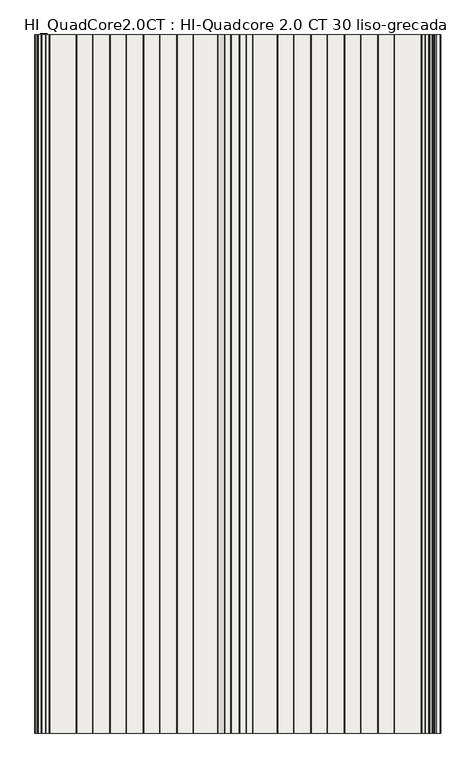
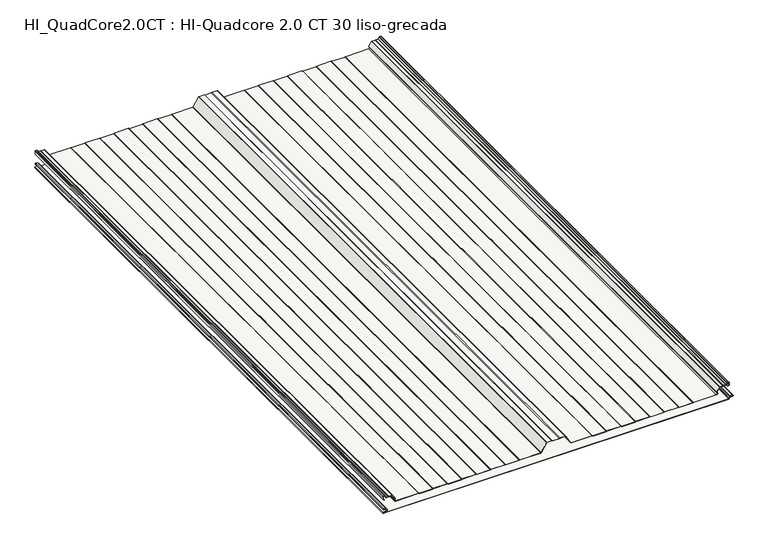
"""IFC4 building model written with IfcOpenShell, lengths in millimetres: slab geometry, HI_QuadCore2.0CT : HI-Quadcore 2.0 CT 30 liso-grecada."""

from ifc_helpers import new_model, si_unit, point, frame, frame_2d, origin, place, context, project, spatial, polyline, circle_curve, trimmed, segment, composite_curve, outline, extrude, source, transform, mapped, element, save
from ifc_brep_helpers import plane_surface, cylinder_surface, revolved_surface, advanced_brep


def hi_quadcore2_0ct_hi_quadcore_2_0_ct_30_liso_grecada_8454063f(model_context):
    return source(origin(), model_context, "Body", "SolidModel", [
        advanced_brep(
        [(1153.6125412, 0.0, 16.239302), (1151.6320413, 0.0, 14.2588021), (1153.3026044, 0.0, 12.2960661), (1161.7027672, 0.0, 10.9645747), (1161.6806488, 0.0, 5.2720118), (1151.7277556, 0.0, 3.7755366), (1152.0100062, 0.0, 0.0), (2297.9590685, 0.0, 0.0), (2300.1391392, 0.0, 2.1800708), (2302.6636211, 0.0, 5.0353254), (2310.9083654, 0.0, 6.0356531), (2310.9083654, 0.0, 10.2043469), (2300.9419234, 0.0, 11.413338), (2298.6324398, 0.0, 14.0237344), (2297.5187526, 0.0, 16.24), (2292.7624398, 0.0, 16.24), (2292.7624398, 0.0, 15.44), (2297.2282701, 0.0, 15.44), (2297.8324398, 0.0, 14.0237344), (2300.8450446, 0.0, 10.6192254), (2310.7843299, 0.0, 9.4135286), (2310.7843221, 0.0, 6.8264698), (2302.5664905, 0.0, 5.8294074), (2299.3391392, 0.0, 2.1800708), (2297.9590685, 0.0, 0.8), (1152.0100062, 0.0, 0.8), (1151.8467032, 0.0, 2.9844289), (1161.7995989, 0.0, 4.4809044), (1161.8278581, 0.0, 11.7547343), (1153.4279307, 0.0, 13.084535), (1152.4319301, 0.0, 14.2584682), (1153.6125693, 0.0, 15.4391074), (1157.510215, 0.0, 15.4391074), (1157.510215, 0.0, 16.239302), (1153.6125412, 2000.0, 16.239302), (1157.510215, 2000.0, 16.239302), (1157.510215, 2000.0, 15.4391074), (1153.6125693, 2000.0, 15.4391074), (1152.4319301, 2000.0, 14.2584682), (1153.4276302, 2000.0, 13.0866965), (1161.8278581, 2000.0, 11.7547343), (1161.7995989, 2000.0, 4.4809044), (1151.8467032, 2000.0, 2.9844289), (1152.0100062, 2000.0, 0.8), (2297.9590685, 2000.0, 0.8), (2299.3391392, 2000.0, 2.1800708), (2302.5664905, 2000.0, 5.8294074), (2310.7843221, 2000.0, 6.8264698), (2310.7843299, 2000.0, 9.4135286), (2300.8450446, 2000.0, 10.6192254), (2297.8324398, 2000.0, 14.0237344), (2297.2282701, 2000.0, 15.44), (2292.7624398, 2000.0, 15.44), (2292.7624398, 2000.0, 16.24), (2297.5187526, 2000.0, 16.24), (2298.6324398, 2000.0, 14.0237344), (2300.9419234, 2000.0, 11.413338), (2310.9083654, 2000.0, 10.2043469), (2310.9083654, 2000.0, 6.0356531), (2302.6636211, 2000.0, 5.0353254), (2300.1391392, 2000.0, 2.1800708), (2297.9590685, 2000.0, 0.0), (1152.0100062, 2000.0, 0.0), (1151.7277556, 2000.0, 3.7755366), (1161.6806488, 2000.0, 5.2720118), (1161.7027672, 2000.0, 10.9645747), (1153.3028397, 2000.0, 12.2943753), (1151.6320413, 2000.0, 14.2588021)],
        [
            (0, 1, circle_curve(frame((1153.6125412, 0.0, 14.2588021), z_axis=(0.0, -1.0, 0.0), x_axis=(1.0, 0.0, 0.0)), 1.9804999)),
            (1, 2, circle_curve(frame((1153.612237, 0.0, 14.2519163), z_axis=(0.0, -1.0, 0.0), x_axis=(1.0, 0.0, 0.0)), 1.9802076)),
            (2, 3),
            (3, 4, circle_curve(frame((1161.2524398, 0.0, 8.12), z_axis=(0.0, 1.0, 0.0), x_axis=(1.0, 0.0, 0.0)), 2.88)),
            (4, 5),
            (5, 6, circle_curve(frame((1152.0100062, 0.0, 1.8983185), z_axis=(0.0, -1.0, 0.0), x_axis=(1.0, 0.0, 0.0)), 1.8983185)),
            (6, 7),
            (7, 8, circle_curve(frame((2297.9590685, 0.0, 2.1800708), z_axis=(0.0, -1.0, 0.0), x_axis=(1.0, 0.0, 0.0)), 2.1800708)),
            (8, 9, circle_curve(frame((2303.0160638, 0.0, 2.1800708), z_axis=(0.0, 1.0, 0.0), x_axis=(1.0, 0.0, 0.0)), 2.8769246)),
            (9, 10),
            (10, 11, circle_curve(frame((2310.5224398, 0.0, 8.12), z_axis=(0.0, -1.0, 0.0), x_axis=(1.0, 0.0, 0.0)), 2.1197737)),
            (11, 12),
            (12, 13, circle_curve(frame((2301.2624398, 0.0, 14.0237344), z_axis=(0.0, 1.0, 0.0), x_axis=(1.0, 0.0, 0.0)), 2.63)),
            (13, 14, circle_curve(frame((2295.8703839, 0.0, 14.0237344), z_axis=(0.0, -1.0, 0.0), x_axis=(1.0, 0.0, 0.0)), 2.7620559)),
            (14, 15),
            (15, 16),
            (16, 17),
            (17, 18, circle_curve(frame((2295.8703839, 0.0, 14.0237344), z_axis=(0.0, 1.0, 0.0), x_axis=(1.0, 0.0, 0.0)), 1.9620559)),
            (18, 19, circle_curve(frame((2301.2624398, 0.0, 14.0237344), z_axis=(0.0, -1.0, 0.0), x_axis=(1.0, 0.0, 0.0)), 3.43)),
            (19, 20),
            (20, 21, circle_curve(frame((2310.5224398, 0.0, 8.12), z_axis=(0.0, 1.0, 0.0), x_axis=(1.0, 0.0, 0.0)), 1.3197737)),
            (21, 22),
            (22, 23, circle_curve(frame((2303.0160638, 0.0, 2.1800708), z_axis=(0.0, -1.0, 0.0), x_axis=(1.0, 0.0, 0.0)), 3.6769246)),
            (23, 24, circle_curve(frame((2297.9590685, 0.0, 2.1800708), z_axis=(0.0, 1.0, 0.0), x_axis=(1.0, 0.0, 0.0)), 1.3800708)),
            (24, 25),
            (25, 26, circle_curve(frame((1152.0100062, 0.0, 1.8983185), z_axis=(0.0, 1.0, 0.0), x_axis=(1.0, 0.0, 0.0)), 1.0983185)),
            (26, 27),
            (27, 28, circle_curve(frame((1161.2524398, 0.0, 8.12), z_axis=(0.0, -1.0, 0.0), x_axis=(1.0, 0.0, 0.0)), 3.68)),
            (28, 29),
            (29, 30, circle_curve(frame((1153.6121809, 0.0, 14.2524448), z_axis=(0.0, 1.0, 0.0), x_axis=(1.0, 0.0, 0.0)), 1.1802661)),
            (30, 31, circle_curve(frame((1153.6125693, 0.0, 14.2584682), z_axis=(0.0, 1.0, 0.0), x_axis=(1.0, 0.0, 0.0)), 1.1806391)),
            (31, 32),
            (32, 33),
            (33, 0),
            (34, 35),
            (35, 36),
            (36, 37),
            (37, 38, circle_curve(frame((1153.6125693, 2000.0, 14.2584682), z_axis=(0.0, -1.0, 0.0), x_axis=(1.0, 0.0, 0.0)), 1.1806391)),
            (38, 39, circle_curve(frame((1153.6121809, 2000.0, 14.2524448), z_axis=(0.0, -1.0, 0.0), x_axis=(1.0, 0.0, 0.0)), 1.1802661)),
            (39, 40),
            (40, 41, circle_curve(frame((1161.2524398, 2000.0, 8.12), z_axis=(0.0, 1.0, 0.0), x_axis=(1.0, 0.0, 0.0)), 3.68)),
            (41, 42),
            (42, 43, circle_curve(frame((1152.0100062, 2000.0, 1.8983185), z_axis=(0.0, -1.0, 0.0), x_axis=(1.0, 0.0, 0.0)), 1.0983185)),
            (43, 44),
            (44, 45, circle_curve(frame((2297.9590685, 2000.0, 2.1800708), z_axis=(0.0, -1.0, 0.0), x_axis=(1.0, 0.0, 0.0)), 1.3800708)),
            (45, 46, circle_curve(frame((2303.0160638, 2000.0, 2.1800708), z_axis=(0.0, 1.0, 0.0), x_axis=(1.0, 0.0, 0.0)), 3.6769246)),
            (46, 47),
            (47, 48, circle_curve(frame((2310.5224398, 2000.0, 8.12), z_axis=(0.0, -1.0, 0.0), x_axis=(1.0, 0.0, 0.0)), 1.3197737)),
            (48, 49),
            (49, 50, circle_curve(frame((2301.2624398, 2000.0, 14.0237344), z_axis=(0.0, 1.0, 0.0), x_axis=(1.0, 0.0, 0.0)), 3.43)),
            (50, 51, circle_curve(frame((2295.8703839, 2000.0, 14.0237344), z_axis=(0.0, -1.0, 0.0), x_axis=(1.0, 0.0, 0.0)), 1.9620559)),
            (51, 52),
            (52, 53),
            (53, 54),
            (54, 55, circle_curve(frame((2295.8703839, 2000.0, 14.0237344), z_axis=(0.0, 1.0, 0.0), x_axis=(1.0, 0.0, 0.0)), 2.7620559)),
            (55, 56, circle_curve(frame((2301.2624398, 2000.0, 14.0237344), z_axis=(0.0, -1.0, 0.0), x_axis=(1.0, 0.0, 0.0)), 2.63)),
            (56, 57),
            (57, 58, circle_curve(frame((2310.5224398, 2000.0, 8.12), z_axis=(0.0, 1.0, 0.0), x_axis=(1.0, 0.0, 0.0)), 2.1197737)),
            (58, 59),
            (59, 60, circle_curve(frame((2303.0160638, 2000.0, 2.1800708), z_axis=(0.0, -1.0, 0.0), x_axis=(1.0, 0.0, 0.0)), 2.8769246)),
            (60, 61, circle_curve(frame((2297.9590685, 2000.0, 2.1800708), z_axis=(0.0, 1.0, 0.0), x_axis=(1.0, 0.0, 0.0)), 2.1800708)),
            (61, 62),
            (62, 63, circle_curve(frame((1152.0100062, 2000.0, 1.8983185), z_axis=(0.0, 1.0, 0.0), x_axis=(1.0, 0.0, 0.0)), 1.8983185)),
            (63, 64),
            (64, 65, circle_curve(frame((1161.2524398, 2000.0, 8.12), z_axis=(0.0, -1.0, 0.0), x_axis=(1.0, 0.0, 0.0)), 2.88)),
            (65, 66),
            (66, 67, circle_curve(frame((1153.612237, 2000.0, 14.2519163), z_axis=(0.0, 1.0, 0.0), x_axis=(1.0, 0.0, 0.0)), 1.9802076)),
            (67, 34, circle_curve(frame((1153.6125412, 2000.0, 14.2588021), z_axis=(0.0, 1.0, 0.0), x_axis=(1.0, 0.0, 0.0)), 1.9804999)),
            (0, 34),
            (67, 1),
            (66, 2),
            (65, 3),
            (64, 4),
            (63, 5),
            (62, 6),
            (61, 7),
            (60, 8),
            (59, 9),
            (58, 10),
            (57, 11),
            (56, 12),
            (55, 13),
            (54, 14),
            (53, 15),
            (52, 16),
            (51, 17),
            (50, 18),
            (49, 19),
            (48, 20),
            (47, 21),
            (46, 22),
            (45, 23),
            (44, 24),
            (43, 25),
            (42, 26),
            (41, 27),
            (40, 28),
            (39, 29),
            (38, 30),
            (37, 31),
            (36, 32),
            (35, 33),
        ],
        [
            plane_surface(frame((1155.5930411, 0.0, 14.2588021), z_axis=(0.0, -1.0, 0.0), x_axis=(0.0, 0.0, 1.0))),
            plane_surface(frame((1155.5930411, 2000.0, 14.2588021), z_axis=(0.0, 1.0, 0.0), x_axis=(0.0, 0.0, -1.0))),
            cylinder_surface(frame((1153.6125412, 2000.0, 14.2588021), z_axis=(0.0, -1.0, 0.0), x_axis=(1.0, 0.0, 0.0)), 1.9804999),
            cylinder_surface(frame((1153.612237, 2000.0, 14.2519163), z_axis=(0.0, -1.0, 0.0), x_axis=(1.0, 0.0, 0.0)), 1.9802076),
            plane_surface(frame((1153.3028397, 0.0, 12.2943753), z_axis=(-0.15636367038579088, 0.0, -0.9876995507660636), x_axis=(0.0, 1.0, 0.0))),
            revolved_surface(polyline([(1164.1324398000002, 2000.0, 8.12), (1164.1324398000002, 0.0, 8.12)]), (1161.2524398, 2000.0, 8.12), (0.0, 1.0, 0.0)),
            plane_surface(frame((1161.6806488, 0.0, 5.2720118), z_axis=(-0.14868453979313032, 0.0, 0.9888846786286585), x_axis=(0.0, 1.0, 0.0))),
            cylinder_surface(frame((1152.0100062, 2000.0, 1.8983185), z_axis=(0.0, -1.0, 0.0), x_axis=(1.0, 0.0, 0.0)), 1.8983185),
            plane_surface(frame((1152.0100062, 0.0, 0.0), z_axis=(0.0, 0.0, -1.0), x_axis=(0.0, 1.0, 0.0))),
            cylinder_surface(frame((2297.9590685, 2000.0, 2.1800708), z_axis=(0.0, -1.0, 0.0), x_axis=(1.0, 0.0, 0.0)), 2.1800708),
            revolved_surface(polyline([(2305.8929884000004, 2000.0, 2.1800708), (2305.8929884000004, 0.0, 2.1800708)]), (2303.0160638, 2000.0, 2.1800708), (0.0, 1.0, 0.0)),
            plane_surface(frame((2302.6636211, 0.0, 5.0353254), z_axis=(0.12044584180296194, 0.0, -0.9927198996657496), x_axis=(0.0, 1.0, 0.0))),
            cylinder_surface(frame((2310.5224398, 2000.0, 8.12), z_axis=(0.0, -1.0, 0.0), x_axis=(1.0, 0.0, 0.0)), 2.1197737),
            plane_surface(frame((2310.9083654, 0.0, 10.2043469), z_axis=(0.12042339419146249, 0.0, 0.9927226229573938), x_axis=(0.0, 1.0, 0.0))),
            revolved_surface(polyline([(2303.8924398, 2000.0, 14.0237344), (2303.8924398, 0.0, 14.0237344)]), (2301.2624398, 2000.0, 14.0237344), (0.0, 1.0, 0.0)),
            cylinder_surface(frame((2295.8703839, 2000.0, 14.0237344), z_axis=(0.0, -1.0, 0.0), x_axis=(1.0, 0.0, 0.0)), 2.7620559),
            plane_surface(frame((2297.5187526, 0.0, 16.24), z_axis=(0.0, 0.0, 1.0), x_axis=(0.0, 1.0, 0.0))),
            plane_surface(frame((2292.7624398, 0.0, 16.24), z_axis=(-1.0, 0.0, 0.0), x_axis=(0.0, 1.0, 0.0))),
            plane_surface(frame((2292.7624398, 0.0, 15.44), z_axis=(0.0, 0.0, -1.0), x_axis=(0.0, 1.0, 0.0))),
            revolved_surface(polyline([(2297.8324398, 2000.0, 14.0237344), (2297.8324398, 0.0, 14.0237344)]), (2295.8703839, 2000.0, 14.0237344), (0.0, 1.0, 0.0)),
            cylinder_surface(frame((2301.2624398, 2000.0, 14.0237344), z_axis=(0.0, -1.0, 0.0), x_axis=(1.0, 0.0, 0.0)), 3.43),
            plane_surface(frame((2300.8450446, 0.0, 10.6192254), z_axis=(-0.12042339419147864, 0.0, -0.9927226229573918), x_axis=(0.0, 1.0, 0.0))),
            revolved_surface(polyline([(2311.8422135, 2000.0, 8.12), (2311.8422135, 0.0, 8.12)]), (2310.5224398, 2000.0, 8.12), (0.0, 1.0, 0.0)),
            plane_surface(frame((2310.7843221, 0.0, 6.8264698), z_axis=(-0.12044584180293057, 0.0, 0.9927198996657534), x_axis=(0.0, 1.0, 0.0))),
            cylinder_surface(frame((2303.0160638, 2000.0, 2.1800708), z_axis=(0.0, -1.0, 0.0), x_axis=(1.0, 0.0, 0.0)), 3.6769246),
            revolved_surface(polyline([(2299.3391392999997, 2000.0, 2.1800708), (2299.3391392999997, 0.0, 2.1800708)]), (2297.9590685, 2000.0, 2.1800708), (0.0, 1.0, 0.0)),
            plane_surface(frame((2297.9590685, 0.0, 0.8), z_axis=(0.0, 0.0, 1.0), x_axis=(0.0, 1.0, 0.0))),
            revolved_surface(polyline([(1153.1083247, 2000.0, 1.8983185), (1153.1083247, 0.0, 1.8983185)]), (1152.0100062, 2000.0, 1.8983185), (0.0, 1.0, 0.0)),
            plane_surface(frame((1151.8467032, 0.0, 2.9844289), z_axis=(0.14868453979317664, 0.0, -0.9888846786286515), x_axis=(0.0, 1.0, 0.0))),
            cylinder_surface(frame((1161.2524398, 2000.0, 8.12), z_axis=(0.0, -1.0, 0.0), x_axis=(1.0, 0.0, 0.0)), 3.68),
            plane_surface(frame((1161.8278581, 0.0, 11.7547343), z_axis=(0.15636367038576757, 0.0, 0.9876995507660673), x_axis=(0.0, 1.0, 0.0))),
            revolved_surface(polyline([(1154.792447, 2000.0, 14.2524448), (1154.792447, 0.0, 14.2524448)]), (1153.6121809, 2000.0, 14.2524448), (0.0, 1.0, 0.0)),
            revolved_surface(polyline([(1154.7932084, 2000.0, 14.2584682), (1154.7932084, 0.0, 14.2584682)]), (1153.6125693, 2000.0, 14.2584682), (0.0, 1.0, 0.0)),
            plane_surface(frame((1153.6125693, 0.0, 15.4391074), z_axis=(0.0, 0.0, -1.0), x_axis=(0.0, 1.0, 0.0))),
            plane_surface(frame((1157.510215, 0.0, 15.4391074), z_axis=(1.0, 0.0, 0.0), x_axis=(0.0, 1.0, 0.0))),
            plane_surface(frame((1157.510215, 0.0, 16.239302), z_axis=(0.0, 0.0, 1.0), x_axis=(0.0, 1.0, 0.0))),
        ],
        [
            (0, [[1, 2, 3, 4, 5, 6, 7, 8, 9, 10, 11, 12, 13, 14, 15, 16, 17, 18, 19, 20, 21, 22, 23, 24, 25, 26, 27, 28, 29, 30, 31, 32, 33, 34]]),
            (1, [[35, 36, 37, 38, 39, 40, 41, 42, 43, 44, 45, 46, 47, 48, 49, 50, 51, 52, 53, 54, 55, 56, 57, 58, 59, 60, 61, 62, 63, 64, 65, 66, 67, 68]]),
            (2, [[-1, 69, -68, 70]]),
            (3, [[-2, -70, -67, 71]]),
            (4, [[-3, -71, -66, 72]]),
            (5, [[-4, -72, -65, 73]]),
            (6, [[-5, -73, -64, 74]]),
            (7, [[-6, -74, -63, 75]]),
            (8, [[-7, -75, -62, 76]]),
            (9, [[-8, -76, -61, 77]]),
            (10, [[-9, -77, -60, 78]]),
            (11, [[-10, -78, -59, 79]]),
            (12, [[-11, -79, -58, 80]]),
            (13, [[-12, -80, -57, 81]]),
            (14, [[-13, -81, -56, 82]]),
            (15, [[-14, -82, -55, 83]]),
            (16, [[-15, -83, -54, 84]]),
            (17, [[-16, -84, -53, 85]]),
            (18, [[-17, -85, -52, 86]]),
            (19, [[-18, -86, -51, 87]]),
            (20, [[-19, -87, -50, 88]]),
            (21, [[-20, -88, -49, 89]]),
            (22, [[-21, -89, -48, 90]]),
            (23, [[-22, -90, -47, 91]]),
            (24, [[-23, -91, -46, 92]]),
            (25, [[-24, -92, -45, 93]]),
            (26, [[-25, -93, -44, 94]]),
            (27, [[-26, -94, -43, 95]]),
            (28, [[-27, -95, -42, 96]]),
            (29, [[-28, -96, -41, 97]]),
            (30, [[-29, -97, -40, 98]]),
            (31, [[-30, -98, -39, 99]]),
            (32, [[-31, -99, -38, 100]]),
            (33, [[-32, -100, -37, 101]]),
            (34, [[-33, -101, -36, 102]]),
            (35, [[-34, -102, -35, -69]]),
        ],
    ),
        extrude(outline(composite_curve([segment(polyline([(47.9163804, 1151.3824194), (45.7425833, 1155.1475465), (46.4354036, 1155.5475465), (48.6669358, 1151.6824194), (58.1, 1151.6824194)]), True, "CONTINUOUS"), segment(trimmed(circle_curve(frame_2d((58.1, 1152.7824194)), 1.1), [point((58.1, 1151.6824194))], [point((59.2, 1152.7824194))], True, "CARTESIAN"), True, "CONTINUOUS"), segment(polyline([(59.2, 1152.7824194), (59.2, 1156.3760168)]), True, "CONTINUOUS"), segment(trimmed(circle_curve(frame_2d((58.1, 1156.3760168)), 1.1), [point((59.2, 1156.3760168))], [point((58.5209518, 1157.3922843))], True, "CARTESIAN"), True, "CONTINUOUS"), segment(polyline([(58.5209518, 1157.3922843), (54.0383476, 1159.2490397)]), True, "CONTINUOUS"), segment(trimmed(circle_curve(frame_2d((54.93, 1161.4016791)), 2.33), [point((54.0383476, 1159.2490397))], [point((52.6, 1161.4016791))], False, "CARTESIAN"), True, "CONTINUOUS"), segment(polyline([(52.6, 1161.4016791), (52.6, 1168.1276514), (51.8110374, 1169.8324194), (52.6, 1171.5371875), (52.6, 1180.8643848)]), True, "CONTINUOUS"), segment(trimmed(circle_curve(frame_2d((51.5, 1180.8643848)), 1.1), [point((52.6, 1180.8643848))], [point((52.1230469, 1181.7709236))], True, "CARTESIAN"), True, "CONTINUOUS"), segment(polyline([(52.1230469, 1181.7709236), (38.5361221, 1191.1089583)]), True, "CONTINUOUS"), segment(trimmed(circle_curve(frame_2d((37.9130752, 1190.2024195)), 1.1), [point((38.5361221, 1191.1089583))], [point((37.0692788, 1190.9081159))], True, "CARTESIAN"), True, "CONTINUOUS"), segment(polyline([(37.0692788, 1190.9081159), (36.2744555, 1189.9577511)]), True, "CONTINUOUS"), segment(trimmed(circle_curve(frame_2d((33.3, 1192.7795617)), 4.1), [point((36.2744555, 1189.9577511))], [point((29.2, 1192.7795617))], False, "CARTESIAN"), True, "CONTINUOUS"), segment(polyline([(29.2, 1192.7795617), (29.2, 1268.8832267), (28.2, 1270.6152775), (28.2, 1315.6495614), (29.2, 1317.3816122), (29.2, 1364.8832267), (28.2, 1366.6152775), (28.2, 1411.6495614), (29.2, 1413.3816122), (29.2, 1460.8832267), (28.2, 1462.6152775), (28.2, 1507.6495614), (29.2, 1509.3816122), (29.2, 1556.8832267), (28.2, 1558.6152775), (28.2, 1603.6495614), (29.2, 1605.3816122), (29.2, 1674.3619266)]), True, "CONTINUOUS"), segment(trimmed(circle_curve(frame_2d((31.53, 1674.3619266)), 2.33), [point((29.2, 1674.3619266))], [point((30.2833287, 1676.330355))], False, "CARTESIAN"), True, "CONTINUOUS"), segment(polyline([(30.2833287, 1676.330355), (58.6885573, 1694.3203331)]), True, "CONTINUOUS"), segment(trimmed(circle_curve(frame_2d((58.1, 1695.2496341)), 1.1), [point((58.6885573, 1694.3203331))], [point((59.2, 1695.2496341))], True, "CARTESIAN"), True, "CONTINUOUS"), segment(polyline([(59.2, 1695.2496341), (59.2, 1711.3832267), (57.7, 1713.9813029), (57.7, 1736.283536), (59.2, 1738.8816122), (59.2, 1755.0152048)]), True, "CONTINUOUS"), segment(trimmed(circle_curve(frame_2d((58.1, 1755.0152048)), 1.1), [point((59.2, 1755.0152048))], [point((58.6885573, 1755.9445057))], True, "CARTESIAN"), True, "CONTINUOUS"), segment(polyline([(58.6885573, 1755.9445057), (30.2833287, 1773.9344839)]), True, "CONTINUOUS"), segment(trimmed(circle_curve(frame_2d((31.53, 1775.9029123)), 2.33), [point((30.2833287, 1773.9344839))], [point((29.2, 1775.9029123))], False, "CARTESIAN"), True, "CONTINUOUS"), segment(polyline([(29.2, 1775.9029123), (29.2, 1844.8832267), (28.2, 1846.6152775), (28.2, 1891.6495614), (29.2, 1893.3816122), (29.2, 1940.8832267), (28.2, 1942.6152775), (28.2, 1987.6495614), (29.2, 1989.3816122), (29.2, 2036.8832267), (28.2, 2038.6152775), (28.2, 2083.6495614), (29.2, 2085.3816122), (29.2, 2132.8832267), (28.2, 2134.6152775), (28.2, 2179.6495614), (29.2, 2181.3816122), (29.2, 2257.4852773)]), True, "CONTINUOUS"), segment(trimmed(circle_curve(frame_2d((33.3, 2257.4852773)), 4.1), [point((29.2, 2257.4852773))], [point((36.2744554, 2260.3070878))], False, "CARTESIAN"), True, "CONTINUOUS"), segment(polyline([(36.2744554, 2260.3070878), (37.0692788, 2259.356723)]), True, "CONTINUOUS"), segment(trimmed(circle_curve(frame_2d((37.9130753, 2260.0624194)), 1.1), [point((37.0692788, 2259.356723))], [point((38.5361221, 2259.1558806))], True, "CARTESIAN"), True, "CONTINUOUS"), segment(polyline([(38.5361221, 2259.1558806), (52.1230469, 2268.4939153)]), True, "CONTINUOUS"), segment(trimmed(circle_curve(frame_2d((51.5, 2269.4004541)), 1.1), [point((52.1230469, 2268.4939153))], [point((52.6, 2269.4004541))], True, "CARTESIAN"), True, "CONTINUOUS"), segment(polyline([(52.6, 2269.4004541), (52.6, 2278.7276514), (51.8110374, 2280.4324194), (52.6, 2282.1371875), (52.6, 2288.8631598)]), True, "CONTINUOUS"), segment(trimmed(circle_curve(frame_2d((54.93, 2288.8631598)), 2.33), [point((52.6, 2288.8631598))], [point((54.0383476, 2291.0157992))], False, "CARTESIAN"), True, "CONTINUOUS"), segment(polyline([(54.0383476, 2291.0157992), (58.5209518, 2292.8725546)]), True, "CONTINUOUS"), segment(trimmed(circle_curve(frame_2d((58.1, 2293.8888221)), 1.1), [point((58.5209518, 2292.8725546))], [point((59.2, 2293.8888221))], True, "CARTESIAN"), True, "CONTINUOUS"), segment(polyline([(59.2, 2293.8888221), (59.2, 2297.4824194)]), True, "CONTINUOUS"), segment(trimmed(circle_curve(frame_2d((58.1, 2297.4824194)), 1.1), [point((59.2, 2297.4824194))], [point((58.1, 2298.5824194))], True, "CARTESIAN"), True, "CONTINUOUS"), segment(polyline([(58.1, 2298.5824194), (48.6669358, 2298.5824194), (46.4354036, 2294.7172924), (45.7425833, 2295.1172924), (47.9163804, 2298.8824194)]), True, "CONTINUOUS"), segment(trimmed(circle_curve(frame_2d((48.7824058, 2298.3824194)), 1.0), [point((47.9163804, 2298.8824194))], [point((48.7824058, 2299.3824194))], False, "CARTESIAN"), True, "CONTINUOUS"), segment(polyline([(48.7824058, 2299.3824194), (58.1, 2299.3824194)]), True, "CONTINUOUS"), segment(trimmed(circle_curve(frame_2d((58.1, 2297.4824194)), 1.9), [point((58.1, 2299.3824194))], [point((60.0, 2297.4824194))], False, "CARTESIAN"), True, "CONTINUOUS"), segment(polyline([(60.0, 2297.4824194), (60.0, 2293.8888221)]), True, "CONTINUOUS"), segment(trimmed(circle_curve(frame_2d((58.1, 2293.8888221)), 1.9), [point((60.0, 2293.8888221))], [point((58.8270985, 2292.133451))], False, "CARTESIAN"), True, "CONTINUOUS"), segment(polyline([(58.8270985, 2292.133451), (54.3444944, 2290.2766955)]), True, "CONTINUOUS"), segment(trimmed(circle_curve(frame_2d((54.93, 2288.8631598)), 1.53), [point((54.3444944, 2290.2766955))], [point((53.4, 2288.8631598))], True, "CARTESIAN"), True, "CONTINUOUS"), segment(polyline([(53.4, 2288.8631598), (53.4, 2281.9610429), (52.6925567, 2280.4324194), (53.4, 2278.903796), (53.4, 2269.4004541)]), True, "CONTINUOUS"), segment(trimmed(circle_curve(frame_2d((51.5, 2269.4004541)), 1.9), [point((53.4, 2269.4004541))], [point((52.5761719, 2267.8346144))], False, "CARTESIAN"), True, "CONTINUOUS"), segment(polyline([(52.5761719, 2267.8346144), (38.9892471, 2258.4965797)]), True, "CONTINUOUS"), segment(trimmed(circle_curve(frame_2d((37.9130753, 2260.0624194)), 1.9), [point((38.9892471, 2258.4965797))], [point((36.4556086, 2258.8434892))], False, "CARTESIAN"), True, "CONTINUOUS"), segment(polyline([(36.4556086, 2258.8434892), (35.6777166, 2259.7736094)]), True, "CONTINUOUS"), segment(trimmed(circle_curve(frame_2d((33.3, 2257.4852773)), 3.3), [point((35.6777166, 2259.7736094))], [point((30.0, 2257.4852773))], True, "CARTESIAN"), True, "CONTINUOUS"), segment(polyline([(30.0, 2257.4852773), (30.0, 2181.5691766)]), True, "CONTINUOUS"), segment(trimmed(circle_curve(frame_2d((28.5, 2181.5691766)), 1.5), [point((30.0, 2181.5691766))], [point((29.7990381, 2180.8191766))], False, "CARTESIAN"), True, "CONTINUOUS"), segment(polyline([(29.7990381, 2180.8191766), (29.0, 2179.435202), (29.0, 2134.8296369), (29.7990381, 2133.4456623)]), True, "CONTINUOUS"), segment(trimmed(circle_curve(frame_2d((28.5, 2132.6956623)), 1.5), [point((29.7990381, 2133.4456623))], [point((30.0, 2132.6956623))], False, "CARTESIAN"), True, "CONTINUOUS"), segment(polyline([(30.0, 2132.6956623), (30.0, 2085.5691766)]), True, "CONTINUOUS"), segment(trimmed(circle_curve(frame_2d((28.5, 2085.5691766)), 1.5), [point((30.0, 2085.5691766))], [point((29.7990381, 2084.8191766))], False, "CARTESIAN"), True, "CONTINUOUS"), segment(polyline([(29.7990381, 2084.8191766), (29.0, 2083.435202), (29.0, 2038.8296369), (29.7990381, 2037.4456623)]), True, "CONTINUOUS"), segment(trimmed(circle_curve(frame_2d((28.5, 2036.6956623)), 1.5), [point((29.7990381, 2037.4456623))], [point((30.0, 2036.6956623))], False, "CARTESIAN"), True, "CONTINUOUS"), segment(polyline([(30.0, 2036.6956623), (30.0, 1989.5691766)]), True, "CONTINUOUS"), segment(trimmed(circle_curve(frame_2d((28.5, 1989.5691766)), 1.5), [point((30.0, 1989.5691766))], [point((29.7990381, 1988.8191766))], False, "CARTESIAN"), True, "CONTINUOUS"), segment(polyline([(29.7990381, 1988.8191766), (29.0, 1987.435202), (29.0, 1942.8296369), (29.7990381, 1941.4456623)]), True, "CONTINUOUS"), segment(trimmed(circle_curve(frame_2d((28.5, 1940.6956623)), 1.5), [point((29.7990381, 1941.4456623))], [point((30.0, 1940.6956623))], False, "CARTESIAN"), True, "CONTINUOUS"), segment(polyline([(30.0, 1940.6956623), (30.0, 1893.5691766)]), True, "CONTINUOUS"), segment(trimmed(circle_curve(frame_2d((28.5, 1893.5691766)), 1.5), [point((30.0, 1893.5691766))], [point((29.7990381, 1892.8191766))], False, "CARTESIAN"), True, "CONTINUOUS"), segment(polyline([(29.7990381, 1892.8191766), (29.0, 1891.435202), (29.0, 1846.8296369), (29.7990381, 1845.4456623)]), True, "CONTINUOUS"), segment(trimmed(circle_curve(frame_2d((28.5, 1844.6956623)), 1.5), [point((29.7990381, 1845.4456623))], [point((30.0, 1844.6956623))], False, "CARTESIAN"), True, "CONTINUOUS"), segment(polyline([(30.0, 1844.6956623), (30.0, 1775.9029123)]), True, "CONTINUOUS"), segment(trimmed(circle_curve(frame_2d((31.53, 1775.9029123)), 1.53), [point((30.0, 1775.9029123))], [point((30.7113703, 1774.6103391))], True, "CARTESIAN"), True, "CONTINUOUS"), segment(polyline([(30.7113703, 1774.6103391), (59.116599, 1756.620361)]), True, "CONTINUOUS"), segment(trimmed(circle_curve(frame_2d((58.1, 1755.0152048)), 1.9), [point((59.116599, 1756.620361))], [point((60.0, 1755.0152048))], False, "CARTESIAN"), True, "CONTINUOUS"), segment(polyline([(60.0, 1755.0152048), (60.0, 1738.6672528), (58.5, 1736.0691766), (58.5, 1714.1956623), (60.0, 1711.5975861), (60.0, 1695.2496341)]), True, "CONTINUOUS"), segment(trimmed(circle_curve(frame_2d((58.1, 1695.2496341)), 1.9), [point((60.0, 1695.2496341))], [point((59.116599, 1693.6444779))], False, "CARTESIAN"), True, "CONTINUOUS"), segment(polyline([(59.116599, 1693.6444779), (30.7113703, 1675.6544998)]), True, "CONTINUOUS"), segment(trimmed(circle_curve(frame_2d((31.53, 1674.3619266)), 1.53), [point((30.7113703, 1675.6544998))], [point((30.0, 1674.3619266))], True, "CARTESIAN"), True, "CONTINUOUS"), segment(polyline([(30.0, 1674.3619266), (30.0, 1605.5691766)]), True, "CONTINUOUS"), segment(trimmed(circle_curve(frame_2d((28.5, 1605.5691766)), 1.5), [point((30.0, 1605.5691766))], [point((29.7990381, 1604.8191766))], False, "CARTESIAN"), True, "CONTINUOUS"), segment(polyline([(29.7990381, 1604.8191766), (29.0, 1603.435202), (29.0, 1558.8296369), (29.7990381, 1557.4456623)]), True, "CONTINUOUS"), segment(trimmed(circle_curve(frame_2d((28.5, 1556.6956623)), 1.5), [point((29.7990381, 1557.4456623))], [point((30.0, 1556.6956623))], False, "CARTESIAN"), True, "CONTINUOUS"), segment(polyline([(30.0, 1556.6956623), (30.0, 1509.5691766)]), True, "CONTINUOUS"), segment(trimmed(circle_curve(frame_2d((28.5, 1509.5691766)), 1.5), [point((30.0, 1509.5691766))], [point((29.7990381, 1508.8191766))], False, "CARTESIAN"), True, "CONTINUOUS"), segment(polyline([(29.7990381, 1508.8191766), (29.0, 1507.435202), (29.0, 1462.8296369), (29.7990381, 1461.4456623)]), True, "CONTINUOUS"), segment(trimmed(circle_curve(frame_2d((28.5, 1460.6956623)), 1.5), [point((29.7990381, 1461.4456623))], [point((30.0, 1460.6956623))], False, "CARTESIAN"), True, "CONTINUOUS"), segment(polyline([(30.0, 1460.6956623), (30.0, 1413.5691766)]), True, "CONTINUOUS"), segment(trimmed(circle_curve(frame_2d((28.5, 1413.5691766)), 1.5), [point((30.0, 1413.5691766))], [point((29.7990381, 1412.8191766))], False, "CARTESIAN"), True, "CONTINUOUS"), segment(polyline([(29.7990381, 1412.8191766), (29.0, 1411.435202), (29.0, 1366.8296369), (29.7990381, 1365.4456623)]), True, "CONTINUOUS"), segment(trimmed(circle_curve(frame_2d((28.5, 1364.6956623)), 1.5), [point((29.7990381, 1365.4456623))], [point((30.0, 1364.6956623))], False, "CARTESIAN"), True, "CONTINUOUS"), segment(polyline([(30.0, 1364.6956623), (30.0, 1317.5691766)]), True, "CONTINUOUS"), segment(trimmed(circle_curve(frame_2d((28.5, 1317.5691766)), 1.5), [point((30.0, 1317.5691766))], [point((29.7990381, 1316.8191766))], False, "CARTESIAN"), True, "CONTINUOUS"), segment(polyline([(29.7990381, 1316.8191766), (29.0, 1315.435202), (29.0, 1270.8296369), (29.7990381, 1269.4456623)]), True, "CONTINUOUS"), segment(trimmed(circle_curve(frame_2d((28.5, 1268.6956623)), 1.5), [point((29.7990381, 1269.4456623))], [point((30.0, 1268.6956623))], False, "CARTESIAN"), True, "CONTINUOUS"), segment(polyline([(30.0, 1268.6956623), (30.0, 1192.7795617)]), True, "CONTINUOUS"), segment(trimmed(circle_curve(frame_2d((33.3, 1192.7795617)), 3.3), [point((30.0, 1192.7795617))], [point((35.6777166, 1190.4912296))], True, "CARTESIAN"), True, "CONTINUOUS"), segment(polyline([(35.6777166, 1190.4912296), (36.4556086, 1191.4213497)]), True, "CONTINUOUS"), segment(trimmed(circle_curve(frame_2d((37.9130752, 1190.2024195)), 1.9), [point((36.4556086, 1191.4213497))], [point((38.9892471, 1191.7682592))], False, "CARTESIAN"), True, "CONTINUOUS"), segment(polyline([(38.9892471, 1191.7682592), (52.5761719, 1182.4302246)]), True, "CONTINUOUS"), segment(trimmed(circle_curve(frame_2d((51.5, 1180.8643848)), 1.9), [point((52.5761719, 1182.4302246))], [point((53.4, 1180.8643848))], False, "CARTESIAN"), True, "CONTINUOUS"), segment(polyline([(53.4, 1180.8643848), (53.4, 1171.3610429), (52.6925567, 1169.8324194), (53.4, 1168.303796), (53.4, 1161.4016791)]), True, "CONTINUOUS"), segment(trimmed(circle_curve(frame_2d((54.93, 1161.4016791)), 1.53), [point((53.4, 1161.4016791))], [point((54.3444944, 1159.9881434))], True, "CARTESIAN"), True, "CONTINUOUS"), segment(polyline([(54.3444944, 1159.9881434), (58.8270985, 1158.1313879)]), True, "CONTINUOUS"), segment(trimmed(circle_curve(frame_2d((58.1, 1156.3760168)), 1.9), [point((58.8270985, 1158.1313879))], [point((60.0, 1156.3760168))], False, "CARTESIAN"), True, "CONTINUOUS"), segment(polyline([(60.0, 1156.3760168), (60.0, 1152.7824194)]), True, "CONTINUOUS"), segment(trimmed(circle_curve(frame_2d((58.1, 1152.7824194)), 1.9), [point((60.0, 1152.7824194))], [point((58.1, 1150.8824194))], False, "CARTESIAN"), True, "CONTINUOUS"), segment(polyline([(58.1, 1150.8824194), (48.7824058, 1150.8824194)]), True, "CONTINUOUS"), segment(trimmed(circle_curve(frame_2d((48.7824058, 1151.8824194)), 1.0), [point((48.7824058, 1150.8824194))], [point((47.9163804, 1151.3824194))], False, "CARTESIAN"), True, "CONTINUOUS")], self_intersect=False)), frame((0.0, 0.0, 0.0), z_axis=(0.0, 1.0, 0.0), x_axis=(0.0, 0.0, 1.0)), (0.0, 0.0, 1.0), 2000.0),
    ])


if __name__ == "__main__":
    model = new_model("IFC4")
    model_context = context("Model", 3, world=origin())
    ifc_project = project(units=[si_unit("LENGTHUNIT", "METRE", prefix="MILLI")], contexts=[model_context])
    site = spatial("IfcSite", under=ifc_project)
    building = spatial("IfcBuilding", under=site)
    placement = place(None, origin())
    hi_quadcore2_0ct_hi_quadcore_2_0_ct_30_liso_grecada_shape = hi_quadcore2_0ct_hi_quadcore_2_0_ct_30_liso_grecada_8454063f(model_context)
    element("IfcSlab", 1, ObjectType="HI_QuadCore2.0CT : HI-Quadcore 2.0 CT 30 liso-grecada", at=placement, inside=building, context=model_context, shape_type="MappedRepresentation", body=[
        mapped(hi_quadcore2_0ct_hi_quadcore_2_0_ct_30_liso_grecada_shape, transform((0.0, 0.0, 0.0), x_axis=(1.0, 0.0, 0.0), y_axis=(0.0, 1.0, 0.0), z_axis=(0.0, 0.0, 1.0))),
    ])
    save(model, "model.ifc")
